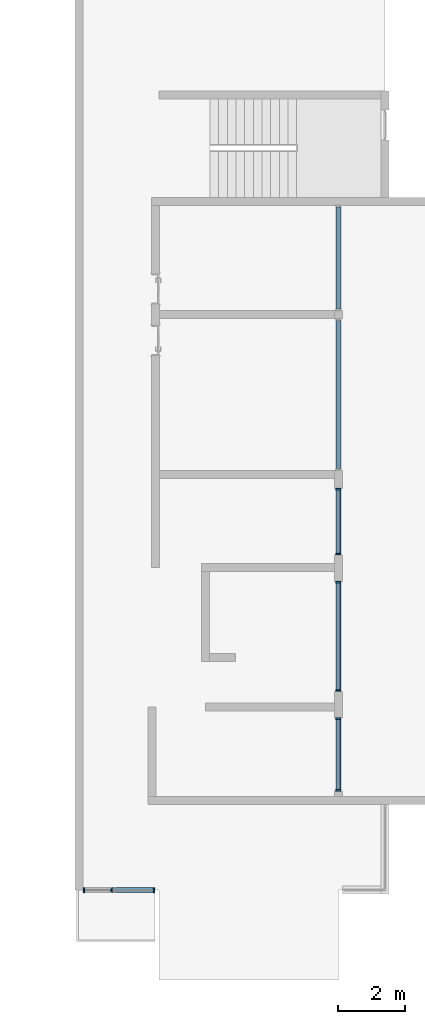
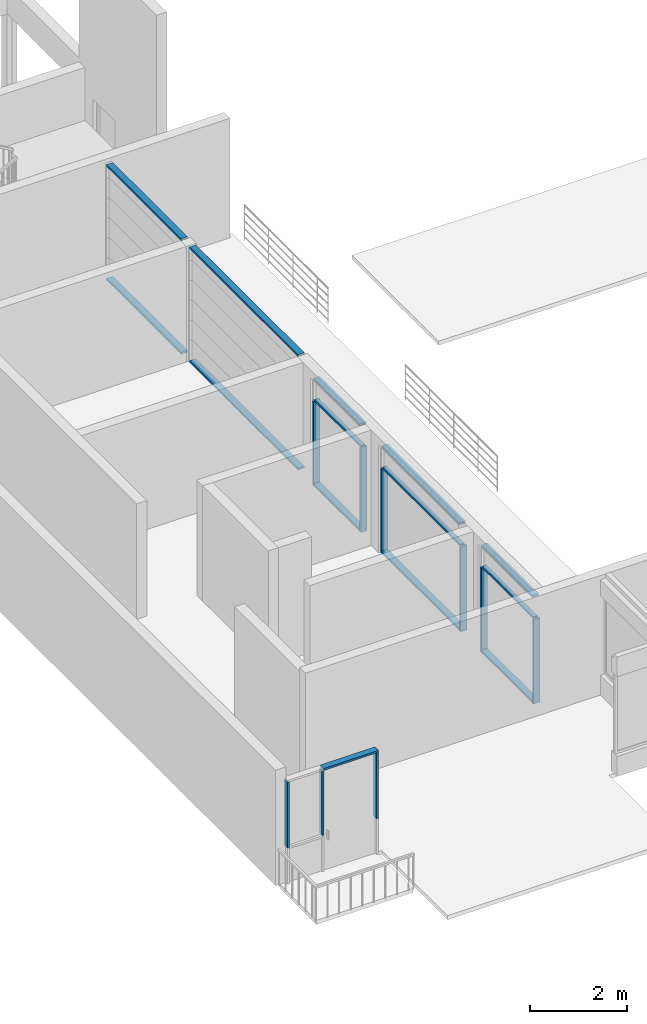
# One storey, part 1 of 16: 23 members, 6 elements without a shape of their own.
"""IFC2X3 building model written with IfcOpenShell, lengths in millimetres."""

from ifc_helpers import new_model, entity, si_unit, converted_unit, derived_unit, direction, frame, origin, origin_2d_with_axis, place, context, subcontext, project, spatial, rectangle, extrude, source, transform, mapped, material, type_object, type_shapes, element, aggregate, save


model = new_model("IFC2X3")

# Units and contexts
model_context = context("Model", 3, precision=0.01, world=origin(), true_north=direction((6.12303176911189e-17, 1.0)))
body_context = subcontext(model_context, "Body", "Model", "MODEL_VIEW")
ifc_project = project(units=[si_unit("LENGTHUNIT", "METRE", prefix="MILLI"), si_unit("AREAUNIT", "SQUARE_METRE"), si_unit("VOLUMEUNIT", "CUBIC_METRE"), converted_unit("PLANEANGLEUNIT", "DEGREE", entity("IfcRatioMeasure", 0.0174532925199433), si_unit("PLANEANGLEUNIT", "RADIAN"), dimensions=[0, 0, 0, 0, 0, 0, 0]), si_unit("MASSUNIT", "GRAM", prefix="KILO"), derived_unit("MASSDENSITYUNIT", [(si_unit("MASSUNIT", "GRAM", prefix="KILO"), 1), (si_unit("LENGTHUNIT", "METRE"), -3)]), si_unit("TIMEUNIT", "SECOND"), si_unit("FREQUENCYUNIT", "HERTZ"), si_unit("THERMODYNAMICTEMPERATUREUNIT", "DEGREE_CELSIUS"), derived_unit("THERMALTRANSMITTANCEUNIT", [(si_unit("MASSUNIT", "GRAM", prefix="KILO"), 1), (si_unit("THERMODYNAMICTEMPERATUREUNIT", "KELVIN"), -1), (si_unit("TIMEUNIT", "SECOND"), -3)]), derived_unit("VOLUMETRICFLOWRATEUNIT", [(si_unit("LENGTHUNIT", "METRE"), 3), (si_unit("TIMEUNIT", "SECOND"), -1)]), si_unit("ELECTRICCURRENTUNIT", "AMPERE"), si_unit("ELECTRICVOLTAGEUNIT", "VOLT"), si_unit("POWERUNIT", "WATT"), si_unit("FORCEUNIT", "NEWTON", prefix="KILO"), si_unit("ILLUMINANCEUNIT", "LUX"), si_unit("LUMINOUSFLUXUNIT", "LUMEN"), si_unit("LUMINOUSINTENSITYUNIT", "CANDELA"), derived_unit("USERDEFINED", [(si_unit("MASSUNIT", "GRAM", prefix="KILO"), -1), (si_unit("LENGTHUNIT", "METRE"), -2), (si_unit("TIMEUNIT", "SECOND"), 3), (si_unit("LUMINOUSFLUXUNIT", "LUMEN"), 1)]), derived_unit("LINEARVELOCITYUNIT", [(si_unit("LENGTHUNIT", "METRE"), 1), (si_unit("TIMEUNIT", "SECOND"), -1)]), si_unit("PRESSUREUNIT", "PASCAL"), derived_unit("USERDEFINED", [(si_unit("LENGTHUNIT", "METRE"), -2), (si_unit("MASSUNIT", "GRAM", prefix="KILO"), 1), (si_unit("TIMEUNIT", "SECOND"), -2)])], contexts=[model_context])

# Site, building, storey
site_placement = place(None, origin())
site = spatial("IfcSite", under=ifc_project, at=site_placement, Name="表面", CompositionType="ELEMENT")
building_placement = place(site_placement, origin())
building = spatial("IfcBuilding", under=site, at=building_placement, CompositionType="ELEMENT")
storey_placement = place(building_placement, frame((0.0, 0.0, 3000.0)))
storey = spatial("IfcBuildingStorey", under=building, at=storey_placement, Name="2F", CompositionType="ELEMENT", Elevation=3000.00000000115)

# Curtain wall, members
curtain_wall_type_1 = type_object("IfcCurtainWallType", Name="幕墙:幕墙 1", PredefinedType="NOTDEFINED")
curtain_wall_1_placement = place(storey_placement, frame((0.0, 0.0, -3000.0)))
curtain_wall_1 = element("IfcCurtainWall", 1, at=curtain_wall_1_placement, inside=storey, type_object=curtain_wall_type_1, Name="幕墙:幕墙 1", ObjectType="幕墙:幕墙 1")
ifc_material = material(Name="金属 - 铝")
member_type_1 = type_object("IfcMemberType", Name="50 x 150mm", PredefinedType="MEMBER")
shared_shape_1 = source(origin(), body_context, "Body", "SweptSolid", [
    extrude(rectangle(XDim=150.0, YDim=50.0, at=origin_2d_with_axis()), frame((-25.0, 0.0, -3069.02251367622), z_axis=(0.0, 0.0, 1.0), x_axis=(0.0, -1.0, 0.0)), (0.0, 0.0, 1.0), 3069.02251367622),
])
type_shapes(member_type_1, [shared_shape_1])
member_1_placement = place(storey_placement, frame((-6630.24991264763, -11946.868426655, 2900.0), z_axis=(0.0, -1.0, 0.0), x_axis=(0.0, 0.0, 1.0)))
member_1 = element("IfcMember", 2, at=member_1_placement, type_object=member_type_1, material=ifc_material, Name="矩形竖梃:50 x 150mm", ObjectType="50 x 150mm", context=body_context, shape_type="MappedRepresentation", body=[
    mapped(shared_shape_1, transform((0.0, 0.0, 0.0), scale=1.0)),
])
member_type_2 = type_object("IfcMemberType", Name="50 x 150mm", PredefinedType="MEMBER")
shared_shape_2 = source(origin(), body_context, "Body", "SweptSolid", [
    extrude(rectangle(XDim=150.0, YDim=50.0, at=origin_2d_with_axis()), frame((-25.0, 0.0, -3069.02251367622), z_axis=(0.0, 0.0, 1.0), x_axis=(0.0, -1.0, 0.0)), (0.0, 0.0, 1.0), 3069.02251367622),
])
type_shapes(member_type_2, [shared_shape_2])
member_2_placement = place(storey_placement, frame((-6630.24991264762, -8877.84591297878, 0.0), z_axis=(0.0, 1.0, 0.0), x_axis=(0.0, 0.0, -1.0)))
member_2 = element("IfcMember", 3, at=member_2_placement, type_object=member_type_2, material=ifc_material, Name="矩形竖梃:50 x 150mm", ObjectType="50 x 150mm", context=body_context, shape_type="MappedRepresentation", body=[
    mapped(shared_shape_2, transform((0.0, 0.0, 0.0), scale=1.0)),
])
aggregate(curtain_wall_1, [member_2, member_1])

curtain_wall_2_placement = place(storey_placement, frame((0.0, 0.0, -3000.0)))
curtain_wall_2 = element("IfcCurtainWall", 4, at=curtain_wall_2_placement, inside=storey, type_object=curtain_wall_type_1, Name="幕墙:幕墙 1", ObjectType="幕墙:幕墙 1")
member_type_3 = type_object("IfcMemberType", Name="50 x 150mm", PredefinedType="MEMBER")
shared_shape_3 = source(origin(), body_context, "Body", "SweptSolid", [
    extrude(rectangle(XDim=150.0, YDim=50.0, at=origin_2d_with_axis()), frame((-25.0, 0.0, -4460.0), z_axis=(0.0, 0.0, 1.0), x_axis=(0.0, -1.0, 0.0)), (0.0, 0.0, 1.0), 4460.0),
])
type_shapes(member_type_3, [shared_shape_3])
member_3_placement = place(storey_placement, frame((-6630.24991264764, -16746.868426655, 2900.0), z_axis=(0.0, -1.0, 0.0), x_axis=(0.0, 0.0, 1.0)))
member_3 = element("IfcMember", 5, at=member_3_placement, type_object=member_type_3, material=ifc_material, Name="矩形竖梃:50 x 150mm", ObjectType="50 x 150mm", context=body_context, shape_type="MappedRepresentation", body=[
    mapped(shared_shape_3, transform((0.0, 0.0, 0.0), scale=1.0)),
])
member_type_4 = type_object("IfcMemberType", Name="50 x 150mm", PredefinedType="MEMBER")
shared_shape_4 = source(origin(), body_context, "Body", "SweptSolid", [
    extrude(rectangle(XDim=150.0, YDim=50.0, at=origin_2d_with_axis()), frame((-25.0, 0.0, -4460.0), z_axis=(0.0, 0.0, 1.0), x_axis=(0.0, -1.0, 0.0)), (0.0, 0.0, 1.0), 4460.0),
])
type_shapes(member_type_4, [shared_shape_4])
member_4_placement = place(storey_placement, frame((-6630.24991264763, -12286.868426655, 0.0), z_axis=(0.0, 1.0, 0.0), x_axis=(0.0, 0.0, -1.0)))
member_4 = element("IfcMember", 6, at=member_4_placement, type_object=member_type_4, material=ifc_material, Name="矩形竖梃:50 x 150mm", ObjectType="50 x 150mm", context=body_context, shape_type="MappedRepresentation", body=[
    mapped(shared_shape_4, transform((0.0, 0.0, 0.0), scale=1.0)),
])
aggregate(curtain_wall_2, [member_4, member_3])

curtain_wall_type_2 = type_object("IfcCurtainWallType", Name="幕墙:幕墙 4", PredefinedType="NOTDEFINED")
curtain_wall_3_placement = place(storey_placement, frame((0.0, 0.0, -3000.0)))
curtain_wall_3 = element("IfcCurtainWall", 7, at=curtain_wall_3_placement, inside=storey, type_object=curtain_wall_type_2, Name="幕墙:幕墙 4", ObjectType="幕墙:幕墙 4")
member_type_5 = type_object("IfcMemberType", Name="50 x 150mm", PredefinedType="MEMBER")
shared_shape_5 = source(origin(), body_context, "Body", "SweptSolid", [
    extrude(rectangle(XDim=150.0, YDim=50.0, at=origin_2d_with_axis()), frame((-25.0, 0.0, -1900.0), z_axis=(0.0, 0.0, 1.0), x_axis=(0.0, -1.0, 0.0)), (0.0, 0.0, 1.0), 1900.0),
])
type_shapes(member_type_5, [shared_shape_5])
member_5_placement = place(storey_placement, frame((-6630.24991264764, -19286.868426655, 2700.0), z_axis=(0.0, -1.0, 0.0), x_axis=(0.0, 0.0, 1.0)))
member_5 = element("IfcMember", 8, at=member_5_placement, type_object=member_type_5, material=ifc_material, Name="矩形竖梃:50 x 150mm", ObjectType="50 x 150mm", context=body_context, shape_type="MappedRepresentation", body=[
    mapped(shared_shape_5, transform((0.0, 0.0, 0.0), scale=1.0)),
])
member_type_6 = type_object("IfcMemberType", Name="50 x 150mm", PredefinedType="MEMBER")
shared_shape_6 = source(origin(), body_context, "Body", "SweptSolid", [
    extrude(rectangle(XDim=150.0, YDim=50.0, at=origin_2d_with_axis()), frame((-25.0, 0.0, -1900.0), z_axis=(0.0, 0.0, 1.0), x_axis=(0.0, -1.0, 0.0)), (0.0, 0.0, 1.0), 1900.0),
])
type_shapes(member_type_6, [shared_shape_6])
member_6_placement = place(storey_placement, frame((-6630.24991264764, -17386.868426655, 0.0), z_axis=(0.0, 1.0, 0.0), x_axis=(0.0, 0.0, -1.0)))
member_6 = element("IfcMember", 9, at=member_6_placement, type_object=member_type_6, material=ifc_material, Name="矩形竖梃:50 x 150mm", ObjectType="50 x 150mm", context=body_context, shape_type="MappedRepresentation", body=[
    mapped(shared_shape_6, transform((0.0, 0.0, 0.0), scale=1.0)),
])
member_type_7 = type_object("IfcMemberType", Name="50 x 150mm", PredefinedType="MEMBER")
shared_shape_7 = source(origin(), body_context, "Body", "SweptSolid", [
    extrude(rectangle(XDim=150.0, YDim=50.0, at=origin_2d_with_axis()), frame((-25.0, 0.0, -2125.0), z_axis=(0.0, 0.0, 1.0), x_axis=(0.0, -1.0, 0.0)), (0.0, 0.0, 1.0), 2125.0),
])
type_shapes(member_type_7, [shared_shape_7])
member_7_placement = place(storey_placement, frame((-6630.24991264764, -19336.868426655, 0.0), z_axis=(0.0, 0.0, -1.0), x_axis=(0.0, -1.0, 0.0)))
member_7 = element("IfcMember", 10, at=member_7_placement, type_object=member_type_7, material=ifc_material, Name="矩形竖梃:50 x 150mm", ObjectType="50 x 150mm", context=body_context, shape_type="MappedRepresentation", body=[
    mapped(shared_shape_7, transform((0.0, 0.0, 0.0), scale=1.0)),
])

# Curtain wall, member
curtain_wall_4_placement = place(storey_placement, frame((0.0, 0.0, -3000.0)))
curtain_wall_4 = element("IfcCurtainWall", 11, at=curtain_wall_4_placement, inside=storey, type_object=curtain_wall_type_2, Name="幕墙:幕墙 4", ObjectType="幕墙:幕墙 4")
member_8_placement = place(storey_placement, frame((-6630.24991264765, -23436.868426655, 0.0), z_axis=(0.0, 0.0, -1.0), x_axis=(0.0, -1.0, 0.0)))
member_8 = element("IfcMember", 12, at=member_8_placement, type_object=member_type_7, material=ifc_material, Name="矩形竖梃:50 x 150mm", ObjectType="50 x 150mm", context=body_context, shape_type="MappedRepresentation", body=[
    mapped(shared_shape_7, transform((0.0, 0.0, 0.0), scale=1.0)),
])

curtain_wall_5_placement = place(storey_placement, frame((0.0, 0.0, -3000.0)))
curtain_wall_5 = element("IfcCurtainWall", 13, at=curtain_wall_5_placement, inside=storey, type_object=curtain_wall_type_2, Name="幕墙:幕墙 4", ObjectType="幕墙:幕墙 4")
member_9_placement = place(storey_placement, frame((-6630.24991264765, -26436.868426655, 0.0), z_axis=(0.0, 0.0, -1.0), x_axis=(0.0, -1.0, 0.0)))
member_9 = element("IfcMember", 14, at=member_9_placement, type_object=member_type_7, material=ifc_material, Name="矩形竖梃:50 x 150mm", ObjectType="50 x 150mm", context=body_context, shape_type="MappedRepresentation", body=[
    mapped(shared_shape_7, transform((0.0, 0.0, 0.0), scale=1.0)),
])

# Member
member_type_8 = type_object("IfcMemberType", Name="50 x 150mm", PredefinedType="MEMBER")
shared_shape_8 = source(origin(), body_context, "Body", "SweptSolid", [
    extrude(rectangle(XDim=150.0, YDim=50.0, at=origin_2d_with_axis()), frame((-25.0, 0.0, -2125.0), z_axis=(0.0, 0.0, 1.0), x_axis=(0.0, -1.0, 0.0)), (0.0, 0.0, 1.0), 2125.0),
])
type_shapes(member_type_8, [shared_shape_8])
member_10_placement = place(storey_placement, frame((-6630.24991264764, -17336.868426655, 2125.0), z_axis=(0.0, 0.0, 1.0), x_axis=(0.0, 1.0, 0.0)))
member_10 = element("IfcMember", 15, at=member_10_placement, type_object=member_type_8, material=ifc_material, Name="矩形竖梃:50 x 150mm", ObjectType="50 x 150mm", context=body_context, shape_type="MappedRepresentation", body=[
    mapped(shared_shape_8, transform((0.0, 0.0, 0.0), scale=1.0)),
])

member_11_placement = place(storey_placement, frame((-6630.24991264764, -20136.868426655, 2125.0), z_axis=(0.0, 0.0, 1.0), x_axis=(0.0, 1.0, 0.0)))
member_11 = element("IfcMember", 16, at=member_11_placement, type_object=member_type_8, material=ifc_material, Name="矩形竖梃:50 x 150mm", ObjectType="50 x 150mm", context=body_context, shape_type="MappedRepresentation", body=[
    mapped(shared_shape_8, transform((0.0, 0.0, 0.0), scale=1.0)),
])

member_12_placement = place(storey_placement, frame((-6630.24991264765, -24236.868426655, 2125.0), z_axis=(0.0, 0.0, 1.0), x_axis=(0.0, 1.0, 0.0)))
member_12 = element("IfcMember", 17, at=member_12_placement, type_object=member_type_8, material=ifc_material, Name="矩形竖梃:50 x 150mm", ObjectType="50 x 150mm", context=body_context, shape_type="MappedRepresentation", body=[
    mapped(shared_shape_8, transform((0.0, 0.0, 0.0), scale=1.0)),
])

member_type_9 = type_object("IfcMemberType", Name="50 x 100mm", PredefinedType="MEMBER")
shared_shape_9 = source(origin(), body_context, "Body", "SweptSolid", [
    extrude(rectangle(XDim=100.0, YDim=50.0, at=origin_2d_with_axis()), frame((0.0, 0.0, -1900.0), z_axis=(0.0, 0.0, 1.0), x_axis=(0.0, -1.0, 0.0)), (0.0, 0.0, 1.0), 1900.0),
])
type_shapes(member_type_9, [shared_shape_9])
member_13_placement = place(storey_placement, frame((-6630.24991264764, -19286.868426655, 2125.0), z_axis=(0.0, -1.0, 0.0), x_axis=(0.0, 0.0, 1.0)))
member_13 = element("IfcMember", 18, at=member_13_placement, type_object=member_type_9, material=ifc_material, Name="矩形竖梃:50 x 100mm", ObjectType="50 x 100mm", context=body_context, shape_type="MappedRepresentation", body=[
    mapped(shared_shape_9, transform((0.0, 0.0, 0.0), scale=1.0)),
])

aggregate(curtain_wall_3, [member_5, member_6, member_7, member_10, member_13])

member_type_10 = type_object("IfcMemberType", Name="50 x 150mm", PredefinedType="MEMBER")
shared_shape_10 = source(origin(), body_context, "Body", "SweptSolid", [
    extrude(rectangle(XDim=150.0, YDim=50.0, at=origin_2d_with_axis()), frame((-25.0, 0.0, -3200.0), z_axis=(0.0, 0.0, 1.0), x_axis=(0.0, -1.0, 0.0)), (0.0, 0.0, 1.0), 3200.0),
])
type_shapes(member_type_10, [shared_shape_10])
member_14_placement = place(storey_placement, frame((-6630.24991264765, -23386.868426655, 2700.0), z_axis=(0.0, -1.0, 0.0), x_axis=(0.0, 0.0, 1.0)))
member_14 = element("IfcMember", 19, at=member_14_placement, type_object=member_type_10, material=ifc_material, Name="矩形竖梃:50 x 150mm", ObjectType="50 x 150mm", context=body_context, shape_type="MappedRepresentation", body=[
    mapped(shared_shape_10, transform((0.0, 0.0, 0.0), scale=1.0)),
])

member_type_11 = type_object("IfcMemberType", Name="50 x 150mm", PredefinedType="MEMBER")
shared_shape_11 = source(origin(), body_context, "Body", "SweptSolid", [
    extrude(rectangle(XDim=150.0, YDim=50.0, at=origin_2d_with_axis()), frame((-25.0, 0.0, -3200.0), z_axis=(0.0, 0.0, 1.0), x_axis=(0.0, -1.0, 0.0)), (0.0, 0.0, 1.0), 3200.0),
])
type_shapes(member_type_11, [shared_shape_11])
member_15_placement = place(storey_placement, frame((-6630.24991264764, -20186.868426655, 0.0), z_axis=(0.0, 1.0, 0.0), x_axis=(0.0, 0.0, -1.0)))
member_15 = element("IfcMember", 20, at=member_15_placement, type_object=member_type_11, material=ifc_material, Name="矩形竖梃:50 x 150mm", ObjectType="50 x 150mm", context=body_context, shape_type="MappedRepresentation", body=[
    mapped(shared_shape_11, transform((0.0, 0.0, 0.0), scale=1.0)),
])

member_type_12 = type_object("IfcMemberType", Name="50 x 100mm", PredefinedType="MEMBER")
shared_shape_12 = source(origin(), body_context, "Body", "SweptSolid", [
    extrude(rectangle(XDim=100.0, YDim=50.0, at=origin_2d_with_axis()), frame((0.0, 0.0, -3200.0), z_axis=(0.0, 0.0, 1.0), x_axis=(0.0, -1.0, 0.0)), (0.0, 0.0, 1.0), 3200.0),
])
type_shapes(member_type_12, [shared_shape_12])
member_16_placement = place(storey_placement, frame((-6630.24991264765, -23386.868426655, 2125.0), z_axis=(0.0, -1.0, 0.0), x_axis=(0.0, 0.0, 1.0)))
member_16 = element("IfcMember", 21, at=member_16_placement, type_object=member_type_12, material=ifc_material, Name="矩形竖梃:50 x 100mm", ObjectType="50 x 100mm", context=body_context, shape_type="MappedRepresentation", body=[
    mapped(shared_shape_12, transform((0.0, 0.0, 0.0), scale=1.0)),
])

aggregate(curtain_wall_4, [member_14, member_15, member_8, member_11, member_16])

member_type_13 = type_object("IfcMemberType", Name="50 x 150mm", PredefinedType="MEMBER")
shared_shape_13 = source(origin(), body_context, "Body", "SweptSolid", [
    extrude(rectangle(XDim=150.0, YDim=50.0, at=origin_2d_with_axis()), frame((-25.0, 0.0, -2100.0), z_axis=(0.0, 0.0, 1.0), x_axis=(0.0, -1.0, 0.0)), (0.0, 0.0, 1.0), 2100.0),
])
type_shapes(member_type_13, [shared_shape_13])
member_17_placement = place(storey_placement, frame((-6630.24991264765, -26386.868426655, 2700.0), z_axis=(0.0, -1.0, 0.0), x_axis=(0.0, 0.0, 1.0)))
member_17 = element("IfcMember", 22, at=member_17_placement, type_object=member_type_13, material=ifc_material, Name="矩形竖梃:50 x 150mm", ObjectType="50 x 150mm", context=body_context, shape_type="MappedRepresentation", body=[
    mapped(shared_shape_13, transform((0.0, 0.0, 0.0), scale=1.0)),
])

member_type_14 = type_object("IfcMemberType", Name="50 x 150mm", PredefinedType="MEMBER")
shared_shape_14 = source(origin(), body_context, "Body", "SweptSolid", [
    extrude(rectangle(XDim=150.0, YDim=50.0, at=origin_2d_with_axis()), frame((-25.0, 0.0, -2100.0), z_axis=(0.0, 0.0, 1.0), x_axis=(0.0, -1.0, 0.0)), (0.0, 0.0, 1.0), 2100.0),
])
type_shapes(member_type_14, [shared_shape_14])
member_18_placement = place(storey_placement, frame((-6630.24991264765, -24286.868426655, 0.0), z_axis=(0.0, 1.0, 0.0), x_axis=(0.0, 0.0, -1.0)))
member_18 = element("IfcMember", 23, at=member_18_placement, type_object=member_type_14, material=ifc_material, Name="矩形竖梃:50 x 150mm", ObjectType="50 x 150mm", context=body_context, shape_type="MappedRepresentation", body=[
    mapped(shared_shape_14, transform((0.0, 0.0, 0.0), scale=1.0)),
])

member_type_15 = type_object("IfcMemberType", Name="50 x 100mm", PredefinedType="MEMBER")
shared_shape_15 = source(origin(), body_context, "Body", "SweptSolid", [
    extrude(rectangle(XDim=100.0, YDim=50.0, at=origin_2d_with_axis()), frame((0.0, 0.0, -2100.0), z_axis=(0.0, 0.0, 1.0), x_axis=(0.0, -1.0, 0.0)), (0.0, 0.0, 1.0), 2100.0),
])
type_shapes(member_type_15, [shared_shape_15])
member_19_placement = place(storey_placement, frame((-6630.24991264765, -26386.868426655, 2125.0), z_axis=(0.0, -1.0, 0.0), x_axis=(0.0, 0.0, 1.0)))
member_19 = element("IfcMember", 24, at=member_19_placement, type_object=member_type_15, material=ifc_material, Name="矩形竖梃:50 x 100mm", ObjectType="50 x 100mm", context=body_context, shape_type="MappedRepresentation", body=[
    mapped(shared_shape_15, transform((0.0, 0.0, 0.0), scale=1.0)),
])

aggregate(curtain_wall_5, [member_17, member_18, member_9, member_12, member_19])

# Curtain wall, members
curtain_wall_type_3 = type_object("IfcCurtainWallType", Name="幕墙:幕墙 2", PredefinedType="NOTDEFINED")
curtain_wall_6_placement = place(storey_placement, frame((0.0, 0.0, -3000.0)))
curtain_wall_6 = element("IfcCurtainWall", 25, at=curtain_wall_6_placement, inside=storey, type_object=curtain_wall_type_3, Name="幕墙:幕墙 2", ObjectType="幕墙:幕墙 2")
member_type_16 = type_object("IfcMemberType", Name="50 x 150mm", PredefinedType="MEMBER")
shared_shape_16 = source(origin(), body_context, "Body", "SweptSolid", [
    extrude(rectangle(XDim=150.0, YDim=50.0, at=origin_2d_with_axis()), frame((-25.0, 0.0, -1300.0), z_axis=(0.0, 0.0, 1.0), x_axis=(0.0, -1.0, 0.0)), (0.0, 0.0, 1.0), 1300.0),
])
type_shapes(member_type_16, [shared_shape_16])
member_20_placement = place(storey_placement, frame((-12150.2499126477, -29416.868426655, 2600.0), z_axis=(1.0, 0.0, 0.0), x_axis=(0.0, 0.0, 1.0)))
member_20 = element("IfcMember", 26, at=member_20_placement, type_object=member_type_16, material=ifc_material, Name="矩形竖梃:50 x 150mm", ObjectType="50 x 150mm", context=body_context, shape_type="MappedRepresentation", body=[
    mapped(shared_shape_16, transform((0.0, 0.0, 0.0), scale=1.0)),
])
member_type_17 = type_object("IfcMemberType", Name="50 x 150mm", PredefinedType="MEMBER")
shared_shape_17 = source(origin(), body_context, "Body", "SweptSolid", [
    extrude(rectangle(XDim=150.0, YDim=50.0, at=origin_2d_with_axis()), frame((-25.0, 0.0, -1650.0), z_axis=(0.0, 0.0, 1.0), x_axis=(0.0, -1.0, 0.0)), (0.0, 0.0, 1.0), 1650.0),
])
type_shapes(member_type_17, [shared_shape_17])
member_21_placement = place(storey_placement, frame((-14310.2499126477, -29416.868426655, 2550.0), z_axis=(0.0, 0.0, 1.0), x_axis=(-1.0, 0.0, 0.0)))
member_21 = element("IfcMember", 27, at=member_21_placement, type_object=member_type_17, material=ifc_material, Name="矩形竖梃:50 x 150mm", ObjectType="50 x 150mm", context=body_context, shape_type="MappedRepresentation", body=[
    mapped(shared_shape_17, transform((0.0, 0.0, 0.0), scale=1.0)),
])
member_type_18 = type_object("IfcMemberType", Name="50 x 150mm", PredefinedType="MEMBER")
shared_shape_18 = source(origin(), body_context, "Body", "SweptSolid", [
    extrude(rectangle(XDim=150.0, YDim=50.0, at=origin_2d_with_axis()), frame((-25.0, 0.0, -1650.0), z_axis=(0.0, 0.0, 1.0), x_axis=(0.0, -1.0, 0.0)), (0.0, 0.0, 1.0), 1650.0),
])
type_shapes(member_type_18, [shared_shape_18])
member_22_placement = place(storey_placement, frame((-12150.2499126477, -29416.868426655, 900.0), z_axis=(0.0, 0.0, -1.0), x_axis=(1.0, 0.0, 0.0)))
member_22 = element("IfcMember", 28, at=member_22_placement, type_object=member_type_18, material=ifc_material, Name="矩形竖梃:50 x 150mm", ObjectType="50 x 150mm", context=body_context, shape_type="MappedRepresentation", body=[
    mapped(shared_shape_18, transform((0.0, 0.0, 0.0), scale=1.0)),
])
member_type_19 = type_object("IfcMemberType", Name="50 x 100mm", PredefinedType="MEMBER")
shared_shape_19 = source(origin(), body_context, "Body", "SweptSolid", [
    extrude(rectangle(XDim=100.0, YDim=50.0, at=origin_2d_with_axis()), frame((0.0, 0.0, -1650.0), z_axis=(0.0, 0.0, 1.0), x_axis=(0.0, -1.0, 0.0)), (0.0, 0.0, 1.0), 1650.0),
])
type_shapes(member_type_19, [shared_shape_19])
member_23_placement = place(storey_placement, frame((-13450.2499126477, -29416.868426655, 900.0), z_axis=(0.0, 0.0, -1.0), x_axis=(1.0, 0.0, 0.0)))
member_23 = element("IfcMember", 29, at=member_23_placement, type_object=member_type_19, material=ifc_material, Name="矩形竖梃:50 x 100mm", ObjectType="50 x 100mm", context=body_context, shape_type="MappedRepresentation", body=[
    mapped(shared_shape_19, transform((0.0, 0.0, 0.0), scale=1.0)),
])
aggregate(curtain_wall_6, [member_20, member_21, member_22, member_23])

save(model, "model.ifc")
